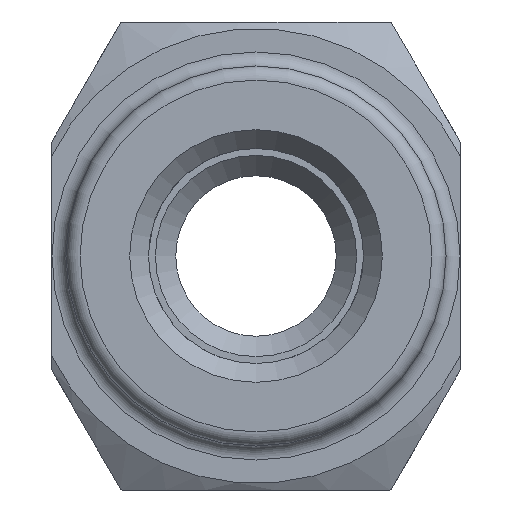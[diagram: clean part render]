
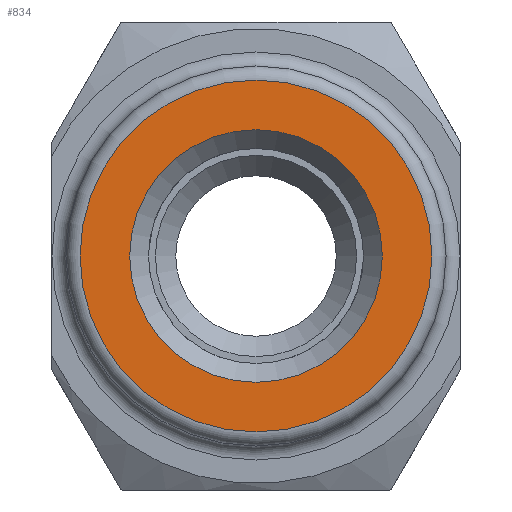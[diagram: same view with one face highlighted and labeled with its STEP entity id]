
A CAD part, front view. The second image highlights one B-rep face of the part: STEP entity #834.
In plain terms, the highlighted planar face has unit normal (0, -1, 0).
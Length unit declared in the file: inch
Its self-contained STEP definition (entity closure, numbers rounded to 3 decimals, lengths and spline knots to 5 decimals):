
#44=PLANE('',#941);
#59=FACE_BOUND('',#164,.T.);
#114=FACE_OUTER_BOUND('',#163,.T.);
#163=EDGE_LOOP('',(#657,#658));
#164=EDGE_LOOP('',(#659,#660));
#265=CIRCLE('',#890,0.27);
#266=CIRCLE('',#891,0.27);
#289=CIRCLE('',#933,0.376);
#293=CIRCLE('',#937,0.376);
#338=VERTEX_POINT('',#1329);
#339=VERTEX_POINT('',#1330);
#360=VERTEX_POINT('',#1417);
#361=VERTEX_POINT('',#1418);
#429=EDGE_CURVE('',#338,#339,#265,.T.);
#430=EDGE_CURVE('',#339,#338,#266,.T.);
#467=EDGE_CURVE('',#360,#361,#289,.T.);
#471=EDGE_CURVE('',#361,#360,#293,.T.);
#657=ORIENTED_EDGE('',*,*,#467,.F.);
#658=ORIENTED_EDGE('',*,*,#471,.F.);
#659=ORIENTED_EDGE('',*,*,#429,.T.);
#660=ORIENTED_EDGE('',*,*,#430,.T.);
#834=ADVANCED_FACE('',(#114,#59),#44,.T.);
#890=AXIS2_PLACEMENT_3D('',#1331,#1033,#1034);
#891=AXIS2_PLACEMENT_3D('',#1332,#1035,#1036);
#933=AXIS2_PLACEMENT_3D('',#1419,#1129,#1130);
#937=AXIS2_PLACEMENT_3D('',#1425,#1137,#1138);
#941=AXIS2_PLACEMENT_3D('',#1432,#1146,#1147);
#1033=DIRECTION('center_axis',(0.,1.,0.));
#1034=DIRECTION('ref_axis',(0.,0.,-1.));
#1035=DIRECTION('center_axis',(0.,1.,0.));
#1036=DIRECTION('ref_axis',(0.,0.,-1.));
#1129=DIRECTION('center_axis',(0.,1.,0.));
#1130=DIRECTION('ref_axis',(0.,0.,1.));
#1137=DIRECTION('center_axis',(0.,1.,0.));
#1138=DIRECTION('ref_axis',(0.,0.,1.));
#1146=DIRECTION('center_axis',(0.,-1.,0.));
#1147=DIRECTION('ref_axis',(0.,0.,-1.));
#1329=CARTESIAN_POINT('',(0.,0.,-0.27));
#1330=CARTESIAN_POINT('',(0.,0.,0.27));
#1331=CARTESIAN_POINT('Origin',(0.,0.,0.));
#1332=CARTESIAN_POINT('Origin',(0.,0.,0.));
#1417=CARTESIAN_POINT('',(0.,0.,-0.376));
#1418=CARTESIAN_POINT('',(0.,0.,0.376));
#1419=CARTESIAN_POINT('Origin',(0.,0.,0.));
#1425=CARTESIAN_POINT('Origin',(0.,0.,0.));
#1432=CARTESIAN_POINT('Origin',(0.,0.,0.));
